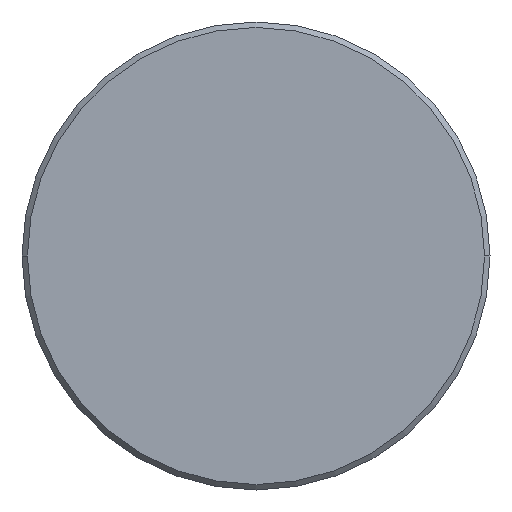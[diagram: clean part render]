
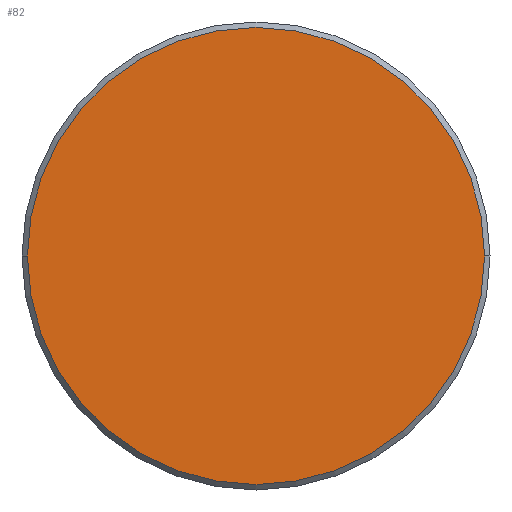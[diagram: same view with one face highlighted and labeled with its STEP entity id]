
A CAD part, left-side view. The second image highlights one B-rep face of the part: STEP entity #82.
In plain terms, the highlighted planar face has unit normal (-1, 0, 0).
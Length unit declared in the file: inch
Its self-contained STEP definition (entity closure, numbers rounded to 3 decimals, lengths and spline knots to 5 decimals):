
#5 = PLANE ( 'NONE',  #191 ) ;
#9 = VERTEX_POINT ( 'NONE', #311 ) ;
#11 = ORIENTED_EDGE ( 'NONE', *, *, #248, .T. ) ;
#12 = CARTESIAN_POINT ( 'NONE',  ( 0., 0., 0. ) ) ;
#61 = DIRECTION ( 'NONE',  ( -1., 0., 0. ) ) ;
#82 = ADVANCED_FACE ( 'NONE', ( #134 ), #5, .T. ) ;
#92 = DIRECTION ( 'NONE',  ( 0., -1., 0. ) ) ;
#95 = DIRECTION ( 'NONE',  ( -1., 0., 0. ) ) ;
#115 = CARTESIAN_POINT ( 'NONE',  ( 0., 0.16788, 0. ) ) ;
#134 = FACE_OUTER_BOUND ( 'NONE', #192, .T. ) ;
#143 = CARTESIAN_POINT ( 'NONE',  ( 0., 0., 0. ) ) ;
#153 = AXIS2_PLACEMENT_3D ( 'NONE', #329, #95, #246 ) ;
#191 = AXIS2_PLACEMENT_3D ( 'NONE', #143, #61, #203 ) ;
#192 = EDGE_LOOP ( 'NONE', ( #11, #310 ) ) ;
#201 = AXIS2_PLACEMENT_3D ( 'NONE', #12, #359, #92 ) ;
#203 = DIRECTION ( 'NONE',  ( 0., -1., 0. ) ) ;
#246 = DIRECTION ( 'NONE',  ( 0., -1., 0. ) ) ;
#248 = EDGE_CURVE ( 'NONE', #335, #9, #282, .T. ) ;
#282 = CIRCLE ( 'NONE', #153, 0.16788 ) ;
#310 = ORIENTED_EDGE ( 'NONE', *, *, #316, .T. ) ;
#311 = CARTESIAN_POINT ( 'NONE',  ( 0., -0.16788, 0. ) ) ;
#316 = EDGE_CURVE ( 'NONE', #9, #335, #354, .T. ) ;
#329 = CARTESIAN_POINT ( 'NONE',  ( 0., 0., 0. ) ) ;
#335 = VERTEX_POINT ( 'NONE', #115 ) ;
#354 = CIRCLE ( 'NONE', #201, 0.16788 ) ;
#359 = DIRECTION ( 'NONE',  ( -1., 0., 0. ) ) ;
